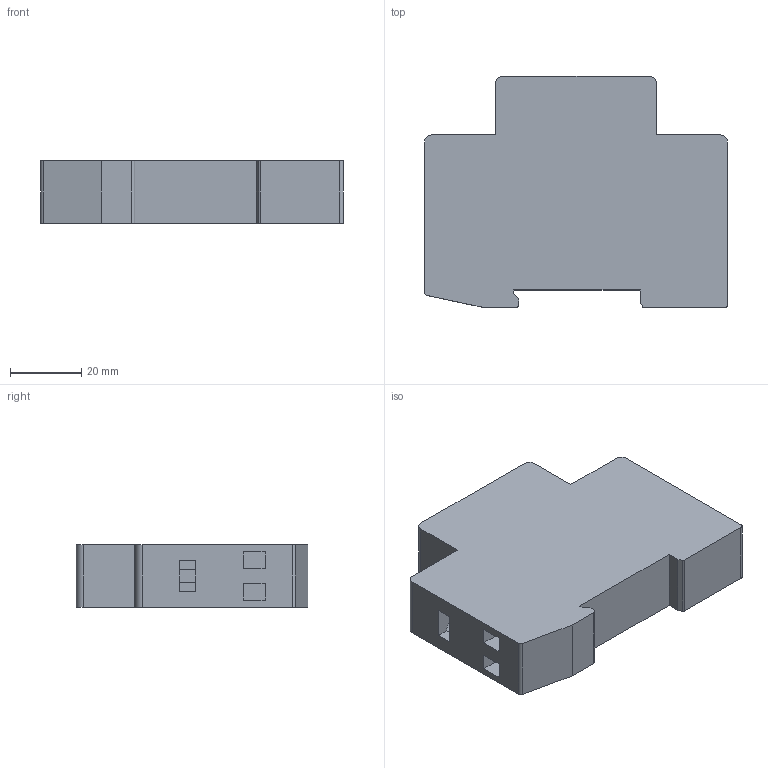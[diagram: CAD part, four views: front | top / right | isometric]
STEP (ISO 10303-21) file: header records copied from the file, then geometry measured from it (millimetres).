
FILE_DESCRIPTION (( 'STEP AP214' ), '1' );
FILE_NAME ('optidin mk6320-20.STEP', '2013-10-17T12:32:16', ( '1' ), ( 'keaz' ), 'SwSTEP 2.0', 'SolidWorks 2007', '' );
FILE_SCHEMA (( 'AUTOMOTIVE_DESIGN' ));
Length unit declared in the file: millimetre
Products named in the file (4): ñòåêëûøêî_Ïî óìîë÷àíèþ; 1õ êîíòàêòîð_Ïî óìîë÷àíèþ; optidin mk6320-20; 鎔艜2
Assembly tree (4 placements, depth 2):
  optidin mk6320-20
    1õ êîíòàêòîð_Ïî óìîë÷àíèþ
    鎔艜2  x2
    ñòåêëûøêî_Ïî óìîë÷àíèþ
Bounding box: 85 x 65 x 17.5 mm (x, y, z)
Volume: 75830.9 mm3; surface area: 18750.3 mm2
Topology: 4 solids, 4 shells, 191 faces, 520 edges, 340 vertices
Faces by surface type: plane 151, cylinder 32, torus 8
Entity records: 4791 total; most frequent: CARTESIAN_POINT 895, ORIENTED_EDGE 808, DIRECTION 772, EDGE_CURVE 404, VECTOR 294, LINE 294, VERTEX_POINT 266, AXIS2_PLACEMENT_3D 239
